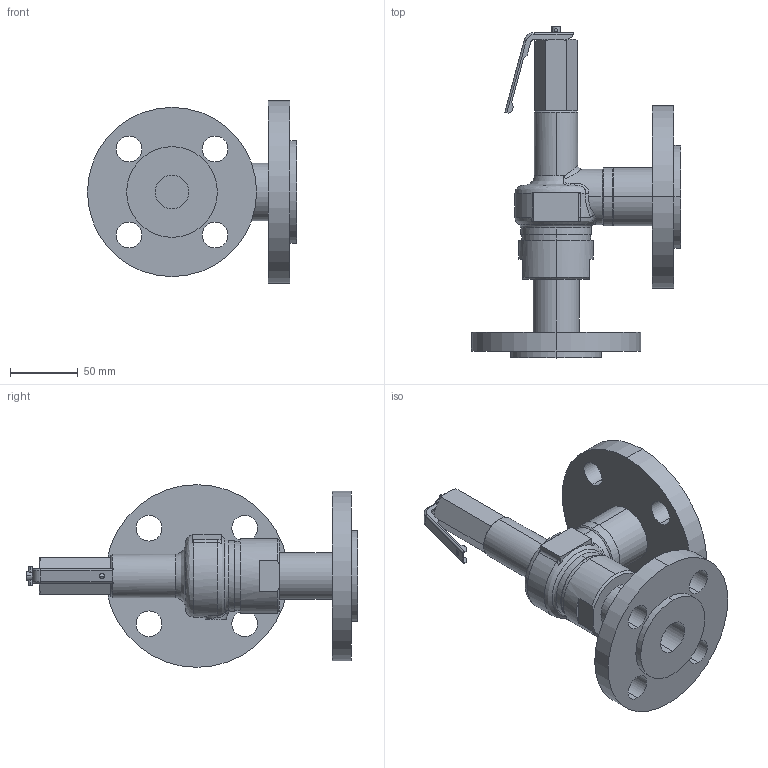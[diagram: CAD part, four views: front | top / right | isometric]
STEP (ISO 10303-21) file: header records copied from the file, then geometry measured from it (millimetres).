
FILE_DESCRIPTION( (''), '2;1');
FILE_NAME ('PC1276.6124.AL-32ML 25A_32149.stp','2025-12-05T09:09:04',(''),(''),'spGate 20.6.3 (****-****-****-****)','','');
FILE_SCHEMA (('AUTOMOTIVE_DESIGN'));
Length unit declared in the file: millimetre
Products named in the file (3): Assembly; AL-12 Lever; AL-32ML 25A(non-lever)-3D
Assembly tree (2 placements, depth 2):
  Assembly
    AL-12 Lever
    AL-32ML 25A(non-lever)-3D
Bounding box: 154.5 x 245.25 x 135 mm (x, y, z)
Volume: 726523.1 mm3; surface area: 113268 mm2
Topology: 2 solids, 2 shells, 198 faces, 483 edges, 302 vertices
Faces by surface type: cylinder 77, plane 66, bspline 51, sphere 4
Entity records: 11599 total; most frequent: CARTESIAN_POINT 3287, ORIENTED_EDGE 966, DIRECTION 864, COLOUR_RGB 683, PRESENTATION_STYLE_ASSIGNMENT 683, STYLED_ITEM 683, EDGE_CURVE 483, DRAUGHTING_PRE_DEFINED_CURVE_FONT 483
